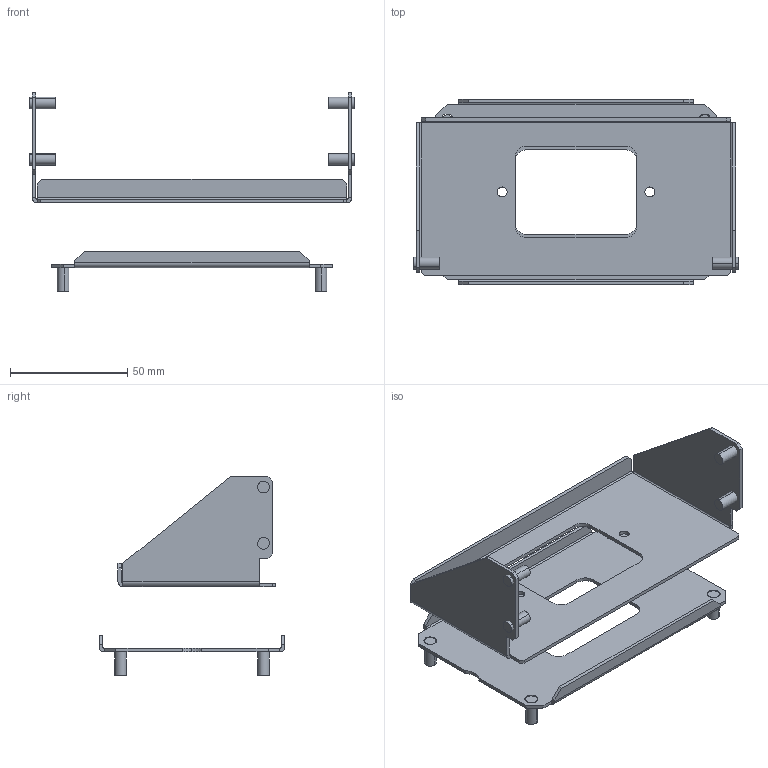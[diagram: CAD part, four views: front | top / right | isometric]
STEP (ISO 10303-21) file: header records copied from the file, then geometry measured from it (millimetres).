
FILE_DESCRIPTION(('CAx-IF Rec.Pracs.---Model Styling and Organization---1.2---2011-12-15','CAx-IF Rec.Pracs.---Geometric and Assembly Validation Properties---4.1---2014-06-16','CAx-IF Rec.Pracs.---PMI Polyline Presentation---2.0---2013-05-24'),'2;1');
FILE_NAME('R5M2W2M3BR16.stp','2021-05-05T12:10:27+03:00',(''),(''),'STEP Interface 4.4 by CT CoreTechnologie','3D_Evolution4.4 by CT CoreTechnologie','');
FILE_SCHEMA(('AUTOMOTIVE_DESIGN { 1 0 10303 214 1 1 1 1 }'));
Length unit declared in the file: millimetre
Products named in the file (4): R5M2W2M3BR16; RB.1353.00.00.0_-00; M5x8-DIN7500C_stright; RB.1254.00.00.0_-00
Assembly tree (10 placements, depth 2):
  R5M2W2M3BR16
    RB.1353.00.00.0_-00
    M5x8-DIN7500C_stright  x8
    RB.1254.00.00.0_-00
Bounding box: 139.1 x 79.2 x 84.9 mm (x, y, z)
Surface area: 44753.1 mm2 (no closed solid volume)
Topology: 0 solids, 10 shells, 144 faces, 346 edges, 222 vertices
Faces by surface type: plane 91, cylinder 53
Entity records: 3881 total; most frequent: DIRECTION 636, CARTESIAN_POINT 625, ORIENTED_EDGE 608, EDGE_CURVE 304, VECTOR 226, LINE 226, AXIS2_PLACEMENT_3D 205, VERTEX_POINT 194
